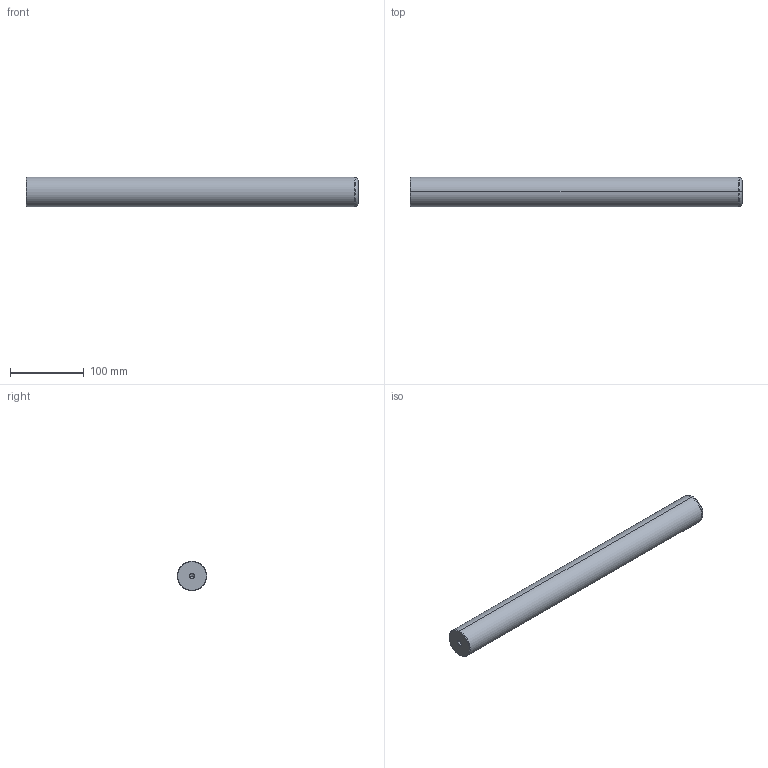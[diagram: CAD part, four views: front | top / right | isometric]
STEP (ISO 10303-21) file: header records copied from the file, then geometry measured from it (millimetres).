
FILE_DESCRIPTION(('CATIA V5 STEP Exchange'),'2;1');
FILE_NAME('C:\Users\Utente\Desktop\IO LAVORO\3D X SITO CF\X SITO\720\720-40x450.stp','2020-12-30T21:54:05+00:00',('none'),('none'),'CATIA Version 5 Release 20 GA (IN-10)','CATIA V5 STEP AP203','none');
FILE_SCHEMA(('CONFIG_CONTROL_DESIGN'));
Length unit declared in the file: millimetre
Products named in the file (1): 720-40x450
Bounding box: 450 x 40 x 40 mm (x, y, z)
Volume: 563112.9 mm3; surface area: 59732.8 mm2
Topology: 1 solids, 1 shells, 22 faces, 62 edges, 40 vertices
Faces by surface type: cone 12, cylinder 6, plane 2, torus 2
Entity records: 806 total; most frequent: CARTESIAN_POINT 229, ORIENTED_EDGE 116, DIRECTION 93, EDGE_CURVE 58, AXIS2_PLACEMENT_3D 54, VERTEX_POINT 40, CIRCLE 31, EDGE_LOOP 24
